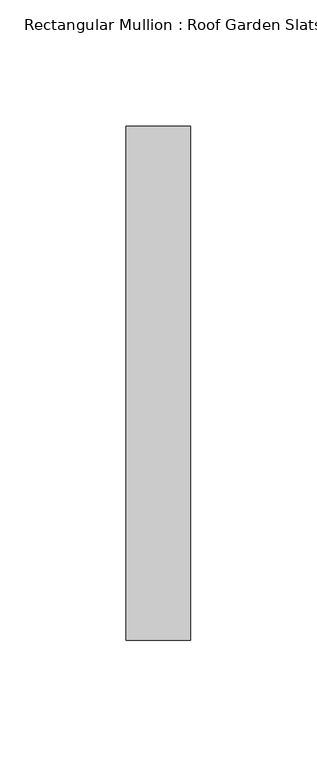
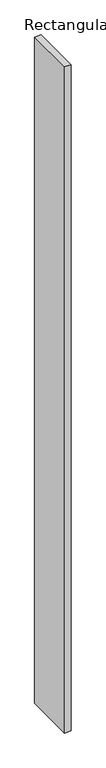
"""IFC4 building model written with IfcOpenShell, lengths in millimetres: member geometry, Rectangular Mullion : Roof Garden Slats."""

import ifcopenshell
import ifcopenshell.guid

model = None  # the IFC model being written
_history = None  # IfcOwnerHistory: only IFC2X3 demands one
_inside = {}  # id of a spatial element -> (the spatial element, [elements in it])
_under = {}  # id of a project, library or spatial element -> (it, [spatial elements below it])
_declared = {}  # id of a project -> (the project, [libraries it declares])
_typed = {}  # id of a type object -> (the type object, [elements of that type])
_made_of = {}  # id of a material, layer set ... -> (it, [elements and type objects made of it])


def new_model(schema):
    """Start an empty IFC model of exactly this schema.

    Asked for "IFC4X3", IfcOpenShell would pick the latest addendum, in which some entities
    have other attributes; the version numbers below select the first issue.
    IFC2X3 requires an IfcOwnerHistory on every rooted entity: one is made here for all.
    """
    global model, _history
    if schema == "IFC4X3":
        model = ifcopenshell.file(schema_version=(4, 3, 0, 0))
    else:
        model = ifcopenshell.file(schema=schema)
    _inside.clear()
    _under.clear()
    _declared.clear()
    _typed.clear()
    _made_of.clear()
    _history = None
    if model.schema == "IFC2X3":
        org = make("IfcOrganization", Name="unknown")
        user = make(
            "IfcPersonAndOrganization",
            ThePerson=make("IfcPerson", FamilyName="unknown"),
            TheOrganization=org,
        )
        app = make(
            "IfcApplication",
            ApplicationDeveloper=org,
            Version="unknown",
            ApplicationFullName="unknown",
            ApplicationIdentifier="unknown",
        )
        _history = make(
            "IfcOwnerHistory",
            OwningUser=user,
            OwningApplication=app,
            ChangeAction="ADDED",
            CreationDate=0,
        )
    return model


def make(cls, **values):
    """One entity of the class cls with the attributes given. An attribute that is None is left unset."""
    return model.create_entity(
        cls, **{name: value for name, value in values.items() if value is not None}
    )


def rooted(cls, **values):
    """An entity with a GlobalId (a new one), such as an element, a storey or a relation."""
    return make(cls, GlobalId=ifcopenshell.guid.new(), OwnerHistory=_history, **values)


def si_unit(unit_type, name, prefix=None):
    """IfcSIUnit, for example si_unit("LENGTHUNIT", "METRE", prefix="MILLI")."""
    return make("IfcSIUnit", UnitType=unit_type, Prefix=prefix, Name=name)


def assignment(units):
    """IfcUnitAssignment: the units of a project."""
    return None if units is None else make("IfcUnitAssignment", Units=units)


def point(xyz):
    """IfcCartesianPoint."""
    return None if xyz is None else make("IfcCartesianPoint", Coordinates=xyz)


def direction(xyz):
    """IfcDirection."""
    return None if xyz is None else make("IfcDirection", DirectionRatios=xyz)


def frame(location, z_axis=None, x_axis=None):
    """IfcAxis2Placement3D, a coordinate frame: its origin and axes. An axis left out is left unset."""
    return make(
        "IfcAxis2Placement3D",
        Location=point(location),
        Axis=direction(z_axis),
        RefDirection=direction(x_axis),
    )


def origin():
    """The frame at (0, 0, 0) with its axes left unset."""
    return frame((0.0, 0.0, 0.0))


def place(relative_to, where):
    """IfcLocalPlacement: puts the frame where relative to a parent placement (None: the world)."""
    return make(
        "IfcLocalPlacement", PlacementRelTo=relative_to, RelativePlacement=where
    )


def context(
    kind, dimensions, precision=None, world=None, true_north=None, identifier=None
):
    """IfcGeometricRepresentationContext, for example the 3D "Model" context."""
    return make(
        "IfcGeometricRepresentationContext",
        ContextIdentifier=identifier,
        ContextType=kind,
        CoordinateSpaceDimension=dimensions,
        Precision=precision,
        WorldCoordinateSystem=world,
        TrueNorth=true_north,
    )


def project(units=None, contexts=None):
    """IfcProject with its units and contexts."""
    return rooted(
        "IfcProject",
        Name="project",
        RepresentationContexts=contexts,
        UnitsInContext=assignment(units),
    )


def spatial(cls, under=None, at=None, **own):
    """A site, building, storey or space (cls), placed at a placement, below another one or the project."""
    s = rooted(cls, ObjectPlacement=at, **own)
    if under is not None:
        _under.setdefault(under.id(), (under, []))[1].append(s)
    return s


def polyline(points):
    """IfcPolyline through the points."""
    return make("IfcPolyline", Points=[point(p) for p in points])


def outline(outer, holes=None, kind="AREA"):
    """IfcArbitraryClosedProfileDef: a profile drawn as a closed curve; with holes, ...WithVoids."""
    if holes is None:
        return make("IfcArbitraryClosedProfileDef", ProfileType=kind, OuterCurve=outer)
    return make(
        "IfcArbitraryProfileDefWithVoids",
        ProfileType=kind,
        OuterCurve=outer,
        InnerCurves=holes,
    )


def extrude(swept, where, along, depth):
    """IfcExtrudedAreaSolid: the profile swept, set in the frame where, extruded along a direction by depth."""
    return make(
        "IfcExtrudedAreaSolid",
        SweptArea=swept,
        Position=where,
        ExtrudedDirection=direction(along),
        Depth=depth,
    )


def shape(context_of_items, identifier, shape_type, items):
    """IfcShapeRepresentation: the items that make up one representation, for example the "Body"."""
    return make(
        "IfcShapeRepresentation",
        ContextOfItems=context_of_items,
        RepresentationIdentifier=identifier,
        RepresentationType=shape_type,
        Items=items,
    )


def source(mapping_origin, context_of_items, identifier, shape_type, items):
    """IfcRepresentationMap: a shape defined once, which mapped items show again and again."""
    return make(
        "IfcRepresentationMap",
        MappingOrigin=mapping_origin,
        MappedRepresentation=shape(context_of_items, identifier, shape_type, items),
    )


def transform(
    local_origin,
    x_axis=None,
    y_axis=None,
    z_axis=None,
    scale=None,
    scale2=None,
    scale3=None,
    uniform=True,
):
    """IfcCartesianTransformationOperator3D, or its non-uniform kind. x_axis, y_axis, z_axis: its Axis1, 2, 3."""
    if uniform:
        return make(
            "IfcCartesianTransformationOperator3D",
            Axis1=direction(x_axis),
            Axis2=direction(y_axis),
            LocalOrigin=point(local_origin),
            Scale=scale,
            Axis3=direction(z_axis),
        )
    return make(
        "IfcCartesianTransformationOperator3DnonUniform",
        Axis1=direction(x_axis),
        Axis2=direction(y_axis),
        LocalOrigin=point(local_origin),
        Scale=scale,
        Axis3=direction(z_axis),
        Scale2=scale2,
        Scale3=scale3,
    )


def mapped(mapping_source, mapping_target):
    """IfcMappedItem: shows the shape of a source again, moved by a transform."""
    return make(
        "IfcMappedItem", MappingSource=mapping_source, MappingTarget=mapping_target
    )


def made_of(thing, what):
    """Note that an element or type object is made of a material, layer set ...; save() writes the relation."""
    if what is not None:
        _made_of.setdefault(what.id(), (what, []))[1].append(thing)
    return thing


def element(
    cls,
    number,
    at=None,
    inside=None,
    cuts=None,
    type_object=None,
    material=None,
    context=None,
    identifier="Body",
    shape_type=None,
    held_by="IfcProductDefinitionShape",
    body=None,
    shapes=None,
    **own,
):
    """One element of the class cls, such as IfcWall. Its Tag is "e" and its number.

    at: its placement. inside: the storey or other place that contains it. cuts: it is an
    opening in that element (IfcRelVoidsElement). A single representation is given by context,
    identifier, shape_type and body (its items); several are given by shapes. held_by: the class
    of the entity that holds the representations. save() writes the other relations.
    """
    e = rooted(cls, Tag="e%d" % number, ObjectPlacement=at, **own)
    if body is not None:
        shapes = [shape(context, identifier, shape_type, body)]
    if shapes is not None:
        e.Representation = make(held_by, Representations=shapes)
    if inside is not None:
        _inside.setdefault(inside.id(), (inside, []))[1].append(e)
    if cuts is not None:
        rooted(
            "IfcRelVoidsElement", RelatingBuildingElement=cuts, RelatedOpeningElement=e
        )
    if type_object is not None:
        _typed.setdefault(type_object.id(), (type_object, []))[1].append(e)
    return made_of(e, material)


def aggregate(whole, parts):
    """IfcRelAggregates: a whole, such as a stair, and the parts it consists of."""
    return rooted("IfcRelAggregates", RelatingObject=whole, RelatedObjects=parts)


def save(model, path):
    """Write the relations noted so far, then the file.

    IfcRelAggregates (storeys below a building ...), IfcRelContainedInSpatialStructure (elements
    in a storey), IfcRelDefinesByType, IfcRelAssociatesMaterial and IfcRelDeclares: one each for
    every whole, place, type object, material and project.
    """
    for whole, parts in _under.values():
        aggregate(whole, parts)
    for where, things in _inside.values():
        rooted(
            "IfcRelContainedInSpatialStructure",
            RelatedElements=things,
            RelatingStructure=where,
        )
    for kind, things in _typed.values():
        rooted("IfcRelDefinesByType", RelatedObjects=things, RelatingType=kind)
    for what, things in _made_of.values():
        rooted("IfcRelAssociatesMaterial", RelatedObjects=things, RelatingMaterial=what)
    for by, libraries in _declared.values():
        rooted("IfcRelDeclares", RelatingContext=by, RelatedDefinitions=libraries)
    model.write(path)


def rectangular_mullion_roof_garden_slats_deecb288(model_context):
    return source(origin(), model_context, "Body", "SweptSolid", [
        extrude(outline(polyline([(12.7, 139.7), (12.7, -63.5), (-12.7, -63.5), (-12.7, 139.7), (12.7, 139.7)])), frame((0.0, 0.0, -2758.4023518), z_axis=(0.0, 0.0, 1.0), x_axis=(1.0, 0.0, 0.0)), (0.0, 0.0, 1.0), 2758.4023518),
    ])


if __name__ == "__main__":
    model = new_model("IFC4")
    model_context = context("Model", 3, world=origin())
    ifc_project = project(units=[si_unit("LENGTHUNIT", "METRE", prefix="MILLI")], contexts=[model_context])
    site = spatial("IfcSite", under=ifc_project)
    building = spatial("IfcBuilding", under=site)
    placement = place(None, origin())
    rectangular_mullion_roof_garden_slats_shape = rectangular_mullion_roof_garden_slats_deecb288(model_context)
    element("IfcMember", 1, ObjectType="Rectangular Mullion : Roof Garden Slats", at=placement, inside=building, context=model_context, shape_type="MappedRepresentation", body=[
        mapped(rectangular_mullion_roof_garden_slats_shape, transform((0.0, 0.0, 0.0), x_axis=(1.0, 0.0, 0.0), y_axis=(0.0, 1.0, 0.0), z_axis=(0.0, 0.0, 1.0))),
    ])
    save(model, "model.ifc")
